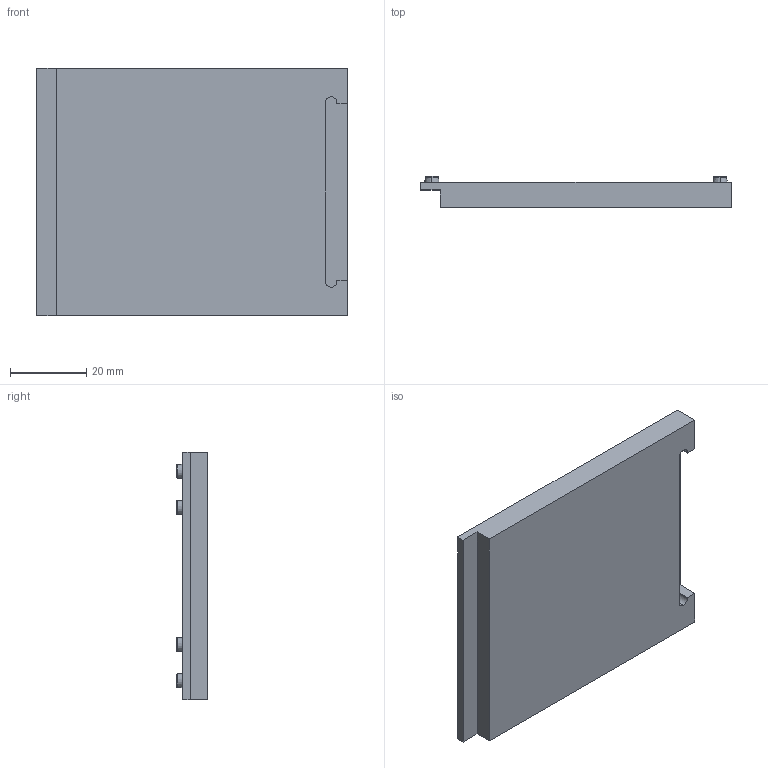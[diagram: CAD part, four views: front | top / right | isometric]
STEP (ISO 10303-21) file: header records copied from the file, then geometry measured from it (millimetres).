
FILE_DESCRIPTION (( 'STEP AP203' ), '1' );
FILE_NAME ('Asyril_VISION CALIBRATION PLATE - 80_000.100.933_(option).step', '2017-07-05T09:52:08', ( 'Standard' ), ( '' ), 'SwSTEP 2.0', 'SolidWorks 2016', '' );
FILE_SCHEMA (( 'CONFIG_CONTROL_DESIGN' ));
Length unit declared in the file: millimetre
Products named in the file (1): Asyril_VISION CALIBRATION PLATE - 80_000.100.933_(option)
Bounding box: 81.7 x 8.05 x 65 mm (x, y, z)
Volume: 29612 mm3; surface area: 12817.4 mm2
Topology: 1 solids, 1 shells, 1231 faces, 2689 edges, 1481 vertices
Faces by surface type: plane 1025, bspline 93, cylinder 65, cone 40, torus 8
Entity records: 37816 total; most frequent: CARTESIAN_POINT 12371, ORIENTED_EDGE 5362, DIRECTION 4691, EDGE_CURVE 2681, VECTOR 2281, LINE 2281, VERTEX_POINT 1481, EDGE_LOOP 1260
